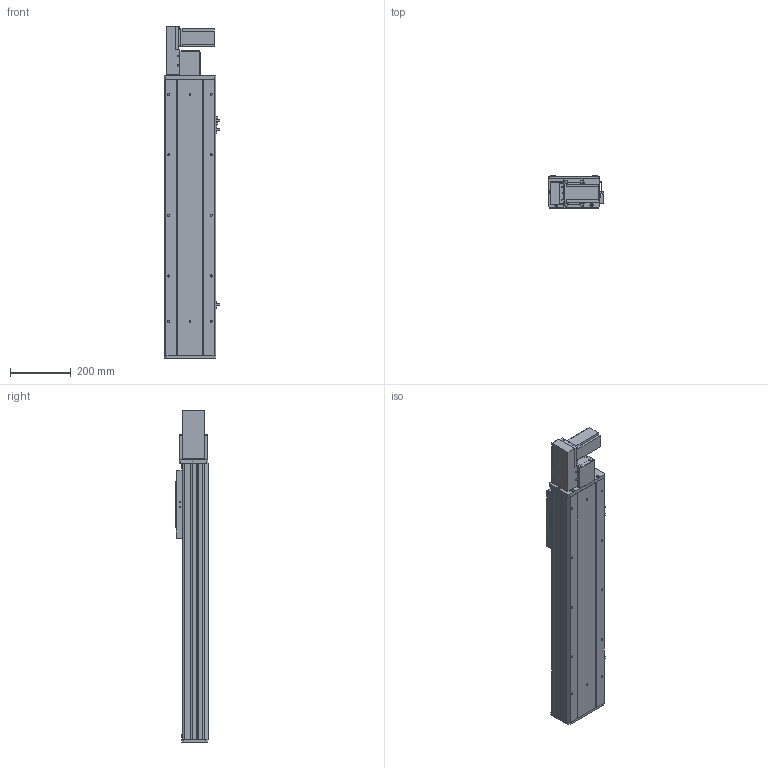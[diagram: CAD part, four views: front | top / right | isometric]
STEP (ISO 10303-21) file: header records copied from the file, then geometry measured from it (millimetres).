
FILE_DESCRIPTION (( 'STEP AP203' ), '1' );
FILE_NAME ('Y170CB-D105-S600-BL-P400W.STEP', '2020-02-20T01:09:01', ( '微软用户' ), ( '微软中国' ), 'SwSTEP 2.0', 'SolidWorks 2017', '' );
FILE_SCHEMA (( 'CONFIG_CONTROL_DESIGN' ));
Length unit declared in the file: millimetre
Products named in the file (18): Y100-135俋离換覜ん--; 70CB-掛极-; Y170CB-陔俋离換覜結え---; --70CB --喘謫眊楊擘啣-; 70B喘謫眊----; 70CB-耜裔啣-; Y1埴倛裔; 70C--詩湍揤踡え-; Y170CB-D105-S600-BL-P400W; B-源倛裔啣; 70CB--耜裔; 17B-耜蚾蟀諉啣----; 70C-雄赽釱-奻-; 0B-萇儂楊擘啣; 0C--雄赽釱俋欶-170; san松下电机400不带刹车----; 70CB-詩湍--; Y70俋欶BR----
Assembly tree (21 placements, depth 2):
  Y170CB-D105-S600-BL-P400W
    B-源倛裔啣
    17B-耜蚾蟀諉啣----
    0B-萇儂楊擘啣
    san松下电机400不带刹车----
    Y70俋欶BR----
    70CB-掛极-
    --70CB --喘謫眊楊擘啣-
    70CB-耜裔啣-  x2
    70C--詩湍揤踡え-  x2
    70CB--耜裔
    70C-雄赽釱-奻-
    0C--雄赽釱俋欶-170
    70CB-詩湍--
    Y100-135俋离換覜ん--  x3
    Y170CB-陔俋离換覜結え---
    70B喘謫眊----
    Y1埴倛裔
Bounding box: 183.5 x 107 x 1097 mm (x, y, z)
Volume: 4962704 mm3; surface area: 1767724.1 mm2
Topology: 21 solids, 21 shells, 991 faces, 2645 edges, 1754 vertices
Faces by surface type: cylinder 503, plane 464, cone 24
Entity records: 31444 total; most frequent: CARTESIAN_POINT 5736, DIRECTION 5110, ORIENTED_EDGE 4772, EDGE_CURVE 2386, AXIS2_PLACEMENT_3D 1864, VERTEX_POINT 1584, VECTOR 1382, LINE 1382
